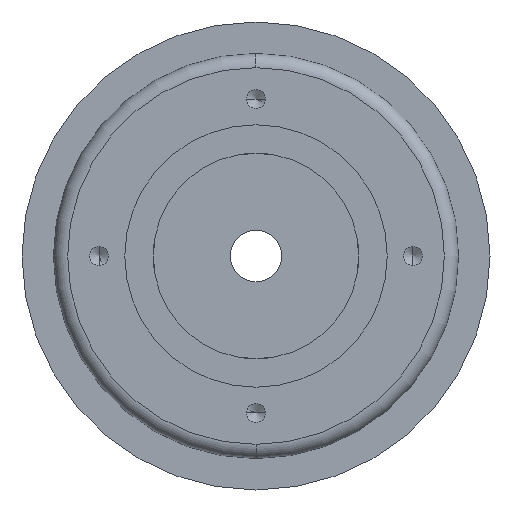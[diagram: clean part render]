
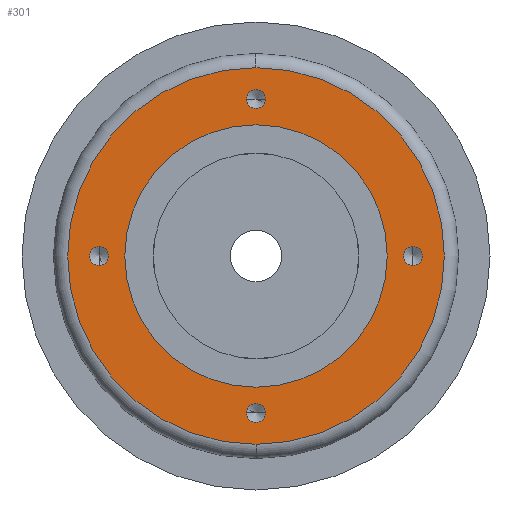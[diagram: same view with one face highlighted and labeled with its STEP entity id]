
A CAD part, left-side view. The second image highlights one B-rep face of the part: STEP entity #301.
In plain terms, the highlighted planar face has unit normal (-1, 0, 0).
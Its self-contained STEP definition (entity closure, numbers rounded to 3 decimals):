
#48 = VERTEX_POINT ( 'NONE', #767 ) ;
#50 = EDGE_CURVE ( 'NONE', #48, #201, #827, .T. ) ;
#67 = VERTEX_POINT ( 'NONE', #796 ) ;
#69 = EDGE_CURVE ( 'NONE', #67, #70, #848, .T. ) ;
#70 = VERTEX_POINT ( 'NONE', #843 ) ;
#88 = EDGE_CURVE ( 'NONE', #98, #89, #1001, .T. ) ;
#89 = VERTEX_POINT ( 'NONE', #996 ) ;
#98 = VERTEX_POINT ( 'NONE', #868 ) ;
#128 = VERTEX_POINT ( 'NONE', #888 ) ;
#130 = EDGE_CURVE ( 'NONE', #128, #131, #993, .T. ) ;
#131 = VERTEX_POINT ( 'NONE', #988 ) ;
#201 = VERTEX_POINT ( 'NONE', #1171 ) ;
#281 = EDGE_CURVE ( 'NONE', #282, #283, #1561, .T. ) ;
#282 = VERTEX_POINT ( 'NONE', #1539 ) ;
#283 = VERTEX_POINT ( 'NONE', #1538 ) ;
#300 = EDGE_CURVE ( 'NONE', #525, #522, #1413, .T. ) ;
#301 = ADVANCED_FACE ( 'NONE', ( #1522, #1521, #1520, #1519, #1518, #1517 ), #1516, .F. ) ;
#302 = EDGE_LOOP ( 'NONE', ( #303, #305 ) ) ;
#303 = ORIENTED_EDGE ( 'NONE', *, *, #304, .T. ) ;
#304 = EDGE_CURVE ( 'NONE', #283, #282, #1511, .T. ) ;
#305 = ORIENTED_EDGE ( 'NONE', *, *, #281, .T. ) ;
#306 = EDGE_LOOP ( 'NONE', ( #309, #311 ) ) ;
#309 = ORIENTED_EDGE ( 'NONE', *, *, #310, .F. ) ;
#310 = EDGE_CURVE ( 'NONE', #70, #67, #1501, .T. ) ;
#311 = ORIENTED_EDGE ( 'NONE', *, *, #69, .F. ) ;
#312 = EDGE_LOOP ( 'NONE', ( #313, #315 ) ) ;
#313 = ORIENTED_EDGE ( 'NONE', *, *, #314, .F. ) ;
#314 = EDGE_CURVE ( 'NONE', #131, #128, #1496, .T. ) ;
#315 = ORIENTED_EDGE ( 'NONE', *, *, #130, .F. ) ;
#316 = EDGE_LOOP ( 'NONE', ( #317, #319 ) ) ;
#317 = ORIENTED_EDGE ( 'NONE', *, *, #318, .F. ) ;
#318 = EDGE_CURVE ( 'NONE', #89, #98, #1583, .T. ) ;
#319 = ORIENTED_EDGE ( 'NONE', *, *, #88, .F. ) ;
#320 = EDGE_LOOP ( 'NONE', ( #321, #324 ) ) ;
#321 = ORIENTED_EDGE ( 'NONE', *, *, #323, .F. ) ;
#323 = EDGE_CURVE ( 'NONE', #201, #48, #1578, .T. ) ;
#324 = ORIENTED_EDGE ( 'NONE', *, *, #50, .F. ) ;
#325 = EDGE_LOOP ( 'NONE', ( #326, #516 ) ) ;
#326 = ORIENTED_EDGE ( 'NONE', *, *, #300, .F. ) ;
#516 = ORIENTED_EDGE ( 'NONE', *, *, #524, .F. ) ;
#522 = VERTEX_POINT ( 'NONE', #2133 ) ;
#524 = EDGE_CURVE ( 'NONE', #522, #525, #2132, .T. ) ;
#525 = VERTEX_POINT ( 'NONE', #2127 ) ;
#767 = CARTESIAN_POINT ( 'NONE',  ( 1., 27.5, -1.65 ) ) ;
#796 = CARTESIAN_POINT ( 'NONE',  ( 1., -1.65, -27.5 ) ) ;
#823 = DIRECTION ( 'NONE',  ( 0., 0., 1. ) ) ;
#824 = DIRECTION ( 'NONE',  ( -1., 0., 0. ) ) ;
#825 = CARTESIAN_POINT ( 'NONE',  ( 1., 27.5, 0. ) ) ;
#826 = AXIS2_PLACEMENT_3D ( 'NONE', #825, #824, #823 ) ;
#827 = CIRCLE ( 'NONE', #826, 1.65 ) ;
#843 = CARTESIAN_POINT ( 'NONE',  ( 1., 1.65, -27.5 ) ) ;
#844 = DIRECTION ( 'NONE',  ( 0., 1., 0. ) ) ;
#845 = DIRECTION ( 'NONE',  ( -1., 0., 0. ) ) ;
#846 = CARTESIAN_POINT ( 'NONE',  ( 1., 0., -27.5 ) ) ;
#847 = AXIS2_PLACEMENT_3D ( 'NONE', #846, #845, #844 ) ;
#848 = CIRCLE ( 'NONE', #847, 1.65 ) ;
#868 = CARTESIAN_POINT ( 'NONE',  ( 1., 1.65, 27.5 ) ) ;
#888 = CARTESIAN_POINT ( 'NONE',  ( 1., -27.5, 1.65 ) ) ;
#988 = CARTESIAN_POINT ( 'NONE',  ( 1., -27.5, -1.65 ) ) ;
#989 = DIRECTION ( 'NONE',  ( 0., 0., -1. ) ) ;
#990 = DIRECTION ( 'NONE',  ( -1., 0., 0. ) ) ;
#991 = CARTESIAN_POINT ( 'NONE',  ( 1., -27.5, 0. ) ) ;
#992 = AXIS2_PLACEMENT_3D ( 'NONE', #991, #990, #989 ) ;
#993 = CIRCLE ( 'NONE', #992, 1.65 ) ;
#996 = CARTESIAN_POINT ( 'NONE',  ( 1., -1.65, 27.5 ) ) ;
#997 = DIRECTION ( 'NONE',  ( 0., -1., 0. ) ) ;
#998 = DIRECTION ( 'NONE',  ( -1., 0., 0. ) ) ;
#999 = CARTESIAN_POINT ( 'NONE',  ( 1., 0., 27.5 ) ) ;
#1000 = AXIS2_PLACEMENT_3D ( 'NONE', #999, #998, #997 ) ;
#1001 = CIRCLE ( 'NONE', #1000, 1.65 ) ;
#1171 = CARTESIAN_POINT ( 'NONE',  ( 1., 27.5, 1.65 ) ) ;
#1412 = CARTESIAN_POINT ( 'NONE',  ( 1., 0., 0. ) ) ;
#1413 = CIRCLE ( 'NONE', #1525, 23. ) ;
#1492 = DIRECTION ( 'NONE',  ( 0., 0., -1. ) ) ;
#1493 = DIRECTION ( 'NONE',  ( -1., 0., 0. ) ) ;
#1494 = CARTESIAN_POINT ( 'NONE',  ( 1., -27.5, 0. ) ) ;
#1495 = AXIS2_PLACEMENT_3D ( 'NONE', #1494, #1493, #1492 ) ;
#1496 = CIRCLE ( 'NONE', #1495, 1.65 ) ;
#1497 = DIRECTION ( 'NONE',  ( 0., 1., 0. ) ) ;
#1498 = DIRECTION ( 'NONE',  ( -1., 0., 0. ) ) ;
#1499 = CARTESIAN_POINT ( 'NONE',  ( 1., 0., -27.5 ) ) ;
#1500 = AXIS2_PLACEMENT_3D ( 'NONE', #1499, #1498, #1497 ) ;
#1501 = CIRCLE ( 'NONE', #1500, 1.65 ) ;
#1507 = DIRECTION ( 'NONE',  ( 0., 0., -1. ) ) ;
#1508 = DIRECTION ( 'NONE',  ( -1., 0., 0. ) ) ;
#1509 = CARTESIAN_POINT ( 'NONE',  ( 1., 0., 0. ) ) ;
#1510 = AXIS2_PLACEMENT_3D ( 'NONE', #1509, #1508, #1507 ) ;
#1511 = CIRCLE ( 'NONE', #1510, 33. ) ;
#1512 = DIRECTION ( 'NONE',  ( 0., 0., -1. ) ) ;
#1513 = DIRECTION ( 'NONE',  ( 1., 0., 0. ) ) ;
#1514 = CARTESIAN_POINT ( 'NONE',  ( 1., 23., 0. ) ) ;
#1515 = AXIS2_PLACEMENT_3D ( 'NONE', #1514, #1513, #1512 ) ;
#1516 = PLANE ( 'NONE',  #1515 ) ;
#1517 = FACE_BOUND ( 'NONE', #325, .T. ) ;
#1518 = FACE_BOUND ( 'NONE', #320, .T. ) ;
#1519 = FACE_BOUND ( 'NONE', #316, .T. ) ;
#1520 = FACE_BOUND ( 'NONE', #312, .T. ) ;
#1521 = FACE_BOUND ( 'NONE', #306, .T. ) ;
#1522 = FACE_OUTER_BOUND ( 'NONE', #302, .T. ) ;
#1523 = DIRECTION ( 'NONE',  ( 0., 0., 1. ) ) ;
#1524 = DIRECTION ( 'NONE',  ( -1., 0., 0. ) ) ;
#1525 = AXIS2_PLACEMENT_3D ( 'NONE', #1412, #1524, #1523 ) ;
#1538 = CARTESIAN_POINT ( 'NONE',  ( 1., 0., -33. ) ) ;
#1539 = CARTESIAN_POINT ( 'NONE',  ( 1., 0., 33. ) ) ;
#1540 = DIRECTION ( 'NONE',  ( 0., 0., -1. ) ) ;
#1541 = DIRECTION ( 'NONE',  ( -1., 0., 0. ) ) ;
#1560 = AXIS2_PLACEMENT_3D ( 'NONE', #1564, #1541, #1540 ) ;
#1561 = CIRCLE ( 'NONE', #1560, 33. ) ;
#1564 = CARTESIAN_POINT ( 'NONE',  ( 1., 0., 0. ) ) ;
#1574 = DIRECTION ( 'NONE',  ( 0., 0., 1. ) ) ;
#1575 = DIRECTION ( 'NONE',  ( -1., 0., 0. ) ) ;
#1576 = CARTESIAN_POINT ( 'NONE',  ( 1., 27.5, 0. ) ) ;
#1577 = AXIS2_PLACEMENT_3D ( 'NONE', #1576, #1575, #1574 ) ;
#1578 = CIRCLE ( 'NONE', #1577, 1.65 ) ;
#1579 = DIRECTION ( 'NONE',  ( 0., -1., 0. ) ) ;
#1580 = DIRECTION ( 'NONE',  ( -1., 0., 0. ) ) ;
#1581 = CARTESIAN_POINT ( 'NONE',  ( 1., 0., 27.5 ) ) ;
#1582 = AXIS2_PLACEMENT_3D ( 'NONE', #1581, #1580, #1579 ) ;
#1583 = CIRCLE ( 'NONE', #1582, 1.65 ) ;
#2127 = CARTESIAN_POINT ( 'NONE',  ( 1., 0., 23. ) ) ;
#2128 = DIRECTION ( 'NONE',  ( 0., 0., 1. ) ) ;
#2129 = DIRECTION ( 'NONE',  ( -1., 0., 0. ) ) ;
#2130 = CARTESIAN_POINT ( 'NONE',  ( 1., 0., 0. ) ) ;
#2131 = AXIS2_PLACEMENT_3D ( 'NONE', #2130, #2129, #2128 ) ;
#2132 = CIRCLE ( 'NONE', #2131, 23. ) ;
#2133 = CARTESIAN_POINT ( 'NONE',  ( 1., 0., -23. ) ) ;
